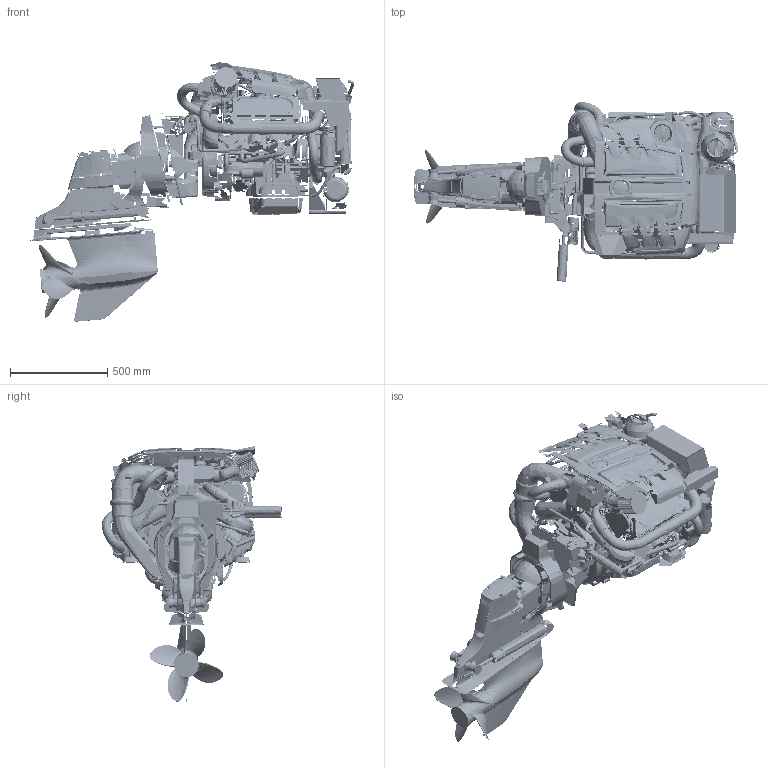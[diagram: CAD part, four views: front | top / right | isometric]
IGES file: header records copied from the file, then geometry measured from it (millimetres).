
Start section:  PTC IGES file: tdi_265-6_bravo_one.igs
Global section: file name: tdi_265-6_bravo_one.igs; native system: Pro/ENGINEER by Parametric Technology Corporation; preprocessor: 2006511; author: ebb9233; organization: Unknown; date: 20070928.164256; units: millimetre
Bounding box: 1666.02 x 925.06 x 1331.97 mm (x, y, z)
Surface area: 9560633.4 mm2 (no closed solid volume)
Topology: 0 solids, 0 shells, 3884 faces, 32849 edges, 32841 vertices
Faces by surface type: bspline 3884
